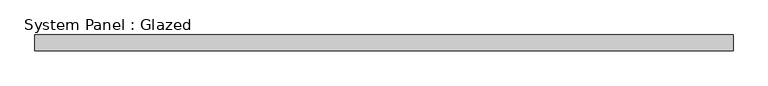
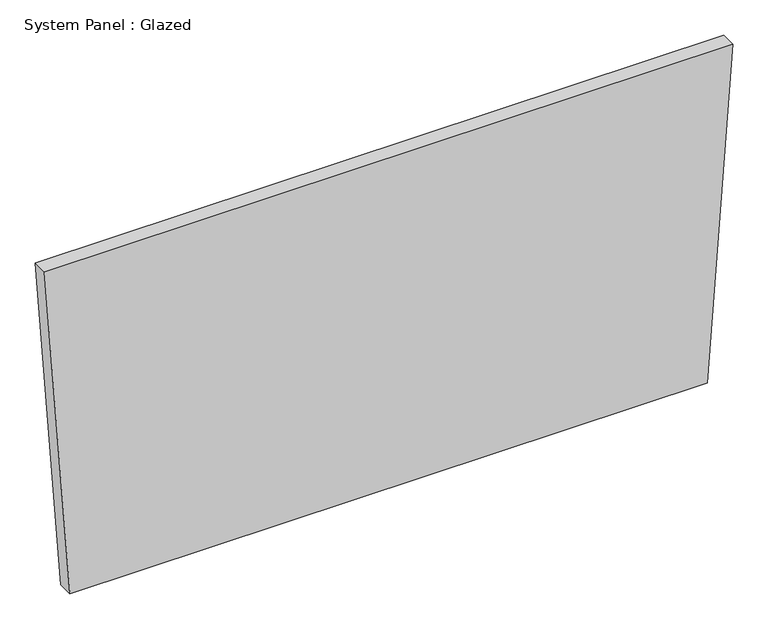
"""IFC4 building model written with IfcOpenShell, lengths in millimetres: plate geometry, System Panel : Glazed."""

import ifcopenshell
import ifcopenshell.guid

model = None  # the IFC model being written
_history = None  # IfcOwnerHistory: only IFC2X3 demands one
_inside = {}  # id of a spatial element -> (the spatial element, [elements in it])
_under = {}  # id of a project, library or spatial element -> (it, [spatial elements below it])
_declared = {}  # id of a project -> (the project, [libraries it declares])
_typed = {}  # id of a type object -> (the type object, [elements of that type])
_made_of = {}  # id of a material, layer set ... -> (it, [elements and type objects made of it])


def new_model(schema):
    """Start an empty IFC model of exactly this schema.

    Asked for "IFC4X3", IfcOpenShell would pick the latest addendum, in which some entities
    have other attributes; the version numbers below select the first issue.
    IFC2X3 requires an IfcOwnerHistory on every rooted entity: one is made here for all.
    """
    global model, _history
    if schema == "IFC4X3":
        model = ifcopenshell.file(schema_version=(4, 3, 0, 0))
    else:
        model = ifcopenshell.file(schema=schema)
    _inside.clear()
    _under.clear()
    _declared.clear()
    _typed.clear()
    _made_of.clear()
    _history = None
    if model.schema == "IFC2X3":
        org = make("IfcOrganization", Name="unknown")
        user = make(
            "IfcPersonAndOrganization",
            ThePerson=make("IfcPerson", FamilyName="unknown"),
            TheOrganization=org,
        )
        app = make(
            "IfcApplication",
            ApplicationDeveloper=org,
            Version="unknown",
            ApplicationFullName="unknown",
            ApplicationIdentifier="unknown",
        )
        _history = make(
            "IfcOwnerHistory",
            OwningUser=user,
            OwningApplication=app,
            ChangeAction="ADDED",
            CreationDate=0,
        )
    return model


def make(cls, **values):
    """One entity of the class cls with the attributes given. An attribute that is None is left unset."""
    return model.create_entity(
        cls, **{name: value for name, value in values.items() if value is not None}
    )


def rooted(cls, **values):
    """An entity with a GlobalId (a new one), such as an element, a storey or a relation."""
    return make(cls, GlobalId=ifcopenshell.guid.new(), OwnerHistory=_history, **values)


def si_unit(unit_type, name, prefix=None):
    """IfcSIUnit, for example si_unit("LENGTHUNIT", "METRE", prefix="MILLI")."""
    return make("IfcSIUnit", UnitType=unit_type, Prefix=prefix, Name=name)


def assignment(units):
    """IfcUnitAssignment: the units of a project."""
    return None if units is None else make("IfcUnitAssignment", Units=units)


def point(xyz):
    """IfcCartesianPoint."""
    return None if xyz is None else make("IfcCartesianPoint", Coordinates=xyz)


def direction(xyz):
    """IfcDirection."""
    return None if xyz is None else make("IfcDirection", DirectionRatios=xyz)


def frame(location, z_axis=None, x_axis=None):
    """IfcAxis2Placement3D, a coordinate frame: its origin and axes. An axis left out is left unset."""
    return make(
        "IfcAxis2Placement3D",
        Location=point(location),
        Axis=direction(z_axis),
        RefDirection=direction(x_axis),
    )


def origin():
    """The frame at (0, 0, 0) with its axes left unset."""
    return frame((0.0, 0.0, 0.0))


def place(relative_to, where):
    """IfcLocalPlacement: puts the frame where relative to a parent placement (None: the world)."""
    return make(
        "IfcLocalPlacement", PlacementRelTo=relative_to, RelativePlacement=where
    )


def context(
    kind, dimensions, precision=None, world=None, true_north=None, identifier=None
):
    """IfcGeometricRepresentationContext, for example the 3D "Model" context."""
    return make(
        "IfcGeometricRepresentationContext",
        ContextIdentifier=identifier,
        ContextType=kind,
        CoordinateSpaceDimension=dimensions,
        Precision=precision,
        WorldCoordinateSystem=world,
        TrueNorth=true_north,
    )


def project(units=None, contexts=None):
    """IfcProject with its units and contexts."""
    return rooted(
        "IfcProject",
        Name="project",
        RepresentationContexts=contexts,
        UnitsInContext=assignment(units),
    )


def spatial(cls, under=None, at=None, **own):
    """A site, building, storey or space (cls), placed at a placement, below another one or the project."""
    s = rooted(cls, ObjectPlacement=at, **own)
    if under is not None:
        _under.setdefault(under.id(), (under, []))[1].append(s)
    return s


def polyline(points):
    """IfcPolyline through the points."""
    return make("IfcPolyline", Points=[point(p) for p in points])


def outline(outer, holes=None, kind="AREA"):
    """IfcArbitraryClosedProfileDef: a profile drawn as a closed curve; with holes, ...WithVoids."""
    if holes is None:
        return make("IfcArbitraryClosedProfileDef", ProfileType=kind, OuterCurve=outer)
    return make(
        "IfcArbitraryProfileDefWithVoids",
        ProfileType=kind,
        OuterCurve=outer,
        InnerCurves=holes,
    )


def extrude(swept, where, along, depth):
    """IfcExtrudedAreaSolid: the profile swept, set in the frame where, extruded along a direction by depth."""
    return make(
        "IfcExtrudedAreaSolid",
        SweptArea=swept,
        Position=where,
        ExtrudedDirection=direction(along),
        Depth=depth,
    )


def shape(context_of_items, identifier, shape_type, items):
    """IfcShapeRepresentation: the items that make up one representation, for example the "Body"."""
    return make(
        "IfcShapeRepresentation",
        ContextOfItems=context_of_items,
        RepresentationIdentifier=identifier,
        RepresentationType=shape_type,
        Items=items,
    )


def source(mapping_origin, context_of_items, identifier, shape_type, items):
    """IfcRepresentationMap: a shape defined once, which mapped items show again and again."""
    return make(
        "IfcRepresentationMap",
        MappingOrigin=mapping_origin,
        MappedRepresentation=shape(context_of_items, identifier, shape_type, items),
    )


def transform(
    local_origin,
    x_axis=None,
    y_axis=None,
    z_axis=None,
    scale=None,
    scale2=None,
    scale3=None,
    uniform=True,
):
    """IfcCartesianTransformationOperator3D, or its non-uniform kind. x_axis, y_axis, z_axis: its Axis1, 2, 3."""
    if uniform:
        return make(
            "IfcCartesianTransformationOperator3D",
            Axis1=direction(x_axis),
            Axis2=direction(y_axis),
            LocalOrigin=point(local_origin),
            Scale=scale,
            Axis3=direction(z_axis),
        )
    return make(
        "IfcCartesianTransformationOperator3DnonUniform",
        Axis1=direction(x_axis),
        Axis2=direction(y_axis),
        LocalOrigin=point(local_origin),
        Scale=scale,
        Axis3=direction(z_axis),
        Scale2=scale2,
        Scale3=scale3,
    )


def mapped(mapping_source, mapping_target):
    """IfcMappedItem: shows the shape of a source again, moved by a transform."""
    return make(
        "IfcMappedItem", MappingSource=mapping_source, MappingTarget=mapping_target
    )


def made_of(thing, what):
    """Note that an element or type object is made of a material, layer set ...; save() writes the relation."""
    if what is not None:
        _made_of.setdefault(what.id(), (what, []))[1].append(thing)
    return thing


def element(
    cls,
    number,
    at=None,
    inside=None,
    cuts=None,
    type_object=None,
    material=None,
    context=None,
    identifier="Body",
    shape_type=None,
    held_by="IfcProductDefinitionShape",
    body=None,
    shapes=None,
    **own,
):
    """One element of the class cls, such as IfcWall. Its Tag is "e" and its number.

    at: its placement. inside: the storey or other place that contains it. cuts: it is an
    opening in that element (IfcRelVoidsElement). A single representation is given by context,
    identifier, shape_type and body (its items); several are given by shapes. held_by: the class
    of the entity that holds the representations. save() writes the other relations.
    """
    e = rooted(cls, Tag="e%d" % number, ObjectPlacement=at, **own)
    if body is not None:
        shapes = [shape(context, identifier, shape_type, body)]
    if shapes is not None:
        e.Representation = make(held_by, Representations=shapes)
    if inside is not None:
        _inside.setdefault(inside.id(), (inside, []))[1].append(e)
    if cuts is not None:
        rooted(
            "IfcRelVoidsElement", RelatingBuildingElement=cuts, RelatedOpeningElement=e
        )
    if type_object is not None:
        _typed.setdefault(type_object.id(), (type_object, []))[1].append(e)
    return made_of(e, material)


def aggregate(whole, parts):
    """IfcRelAggregates: a whole, such as a stair, and the parts it consists of."""
    return rooted("IfcRelAggregates", RelatingObject=whole, RelatedObjects=parts)


def save(model, path):
    """Write the relations noted so far, then the file.

    IfcRelAggregates (storeys below a building ...), IfcRelContainedInSpatialStructure (elements
    in a storey), IfcRelDefinesByType, IfcRelAssociatesMaterial and IfcRelDeclares: one each for
    every whole, place, type object, material and project.
    """
    for whole, parts in _under.values():
        aggregate(whole, parts)
    for where, things in _inside.values():
        rooted(
            "IfcRelContainedInSpatialStructure",
            RelatedElements=things,
            RelatingStructure=where,
        )
    for kind, things in _typed.values():
        rooted("IfcRelDefinesByType", RelatedObjects=things, RelatingType=kind)
    for what, things in _made_of.values():
        rooted("IfcRelAssociatesMaterial", RelatedObjects=things, RelatingMaterial=what)
    for by, libraries in _declared.values():
        rooted("IfcRelDeclares", RelatingContext=by, RelatedDefinitions=libraries)
    model.write(path)


def system_panel_glazed_ea9aaf36(model_context):
    return source(origin(), model_context, "Body", "SweptSolid", [
        extrude(outline(polyline([(0.0, -519.7549233), (0.0, 519.7549233), (569.8901817, 561.2535388), (569.8901817, -561.2535388), (0.0, -519.7549233)])), frame((0.0, -44.45, 0.0), z_axis=(0.0, 1.0, 0.0), x_axis=(0.0, 0.0, 1.0)), (0.0, 0.0, 1.0), 25.4),
    ])


if __name__ == "__main__":
    model = new_model("IFC4")
    model_context = context("Model", 3, world=origin())
    ifc_project = project(units=[si_unit("LENGTHUNIT", "METRE", prefix="MILLI")], contexts=[model_context])
    site = spatial("IfcSite", under=ifc_project)
    building = spatial("IfcBuilding", under=site)
    placement = place(None, origin())
    system_panel_glazed_shape = system_panel_glazed_ea9aaf36(model_context)
    element("IfcPlate", 1, ObjectType="System Panel : Glazed", at=placement, inside=building, context=model_context, shape_type="MappedRepresentation", body=[
        mapped(system_panel_glazed_shape, transform((0.0, 0.0, 0.0), x_axis=(1.0, 0.0, 0.0), y_axis=(0.0, 1.0, 0.0), z_axis=(0.0, 0.0, 1.0))),
    ])
    save(model, "model.ifc")
